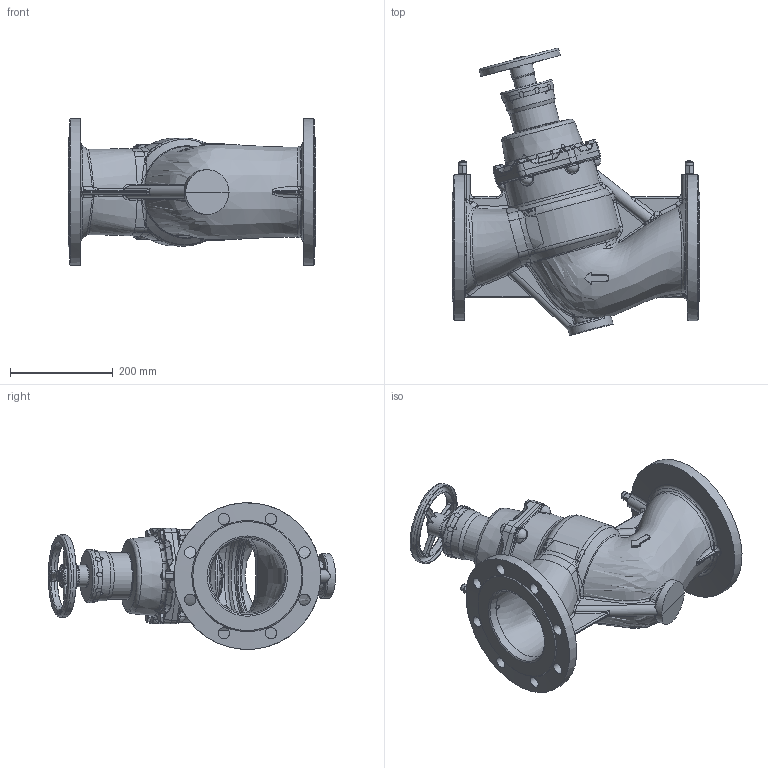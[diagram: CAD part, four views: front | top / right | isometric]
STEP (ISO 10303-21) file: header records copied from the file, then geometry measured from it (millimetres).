
FILE_DESCRIPTION (( 'STEP AP203' ), '1' );
FILE_NAME ('EKOFLUX.S_DN150.STEP', '2013-01-17T13:08:29', ( 'luca.saino' ), ( 'Hewlett-Packard Company' ), 'SwSTEP 2.0', 'SolidWorks 2012', '' );
FILE_SCHEMA (( 'CONFIG_CONTROL_DESIGN' ));
Length unit declared in the file: millimetre
Products named in the file (1): EKOFLUX.S_DN150
Bounding box: 480 x 558.45 x 284.76 mm (x, y, z)
Volume: 9447769.3 mm3; surface area: 983015.6 mm2
Topology: 1 solids, 9 shells, 1570 faces, 3929 edges, 2363 vertices
Faces by surface type: bspline 638, plane 359, cylinder 218, cone 185, torus 128, sphere 42
Full cylindrical faces by diameter (mm): 5 x2, 6.5 x2, 8.5 x4, 10 x2, 11.5 x2, 15 x4, 20 x1, 22 x17, 42 x1, 45 x1, 87 x1, 90 x1, 92.99 x1, 97 x1, 103 x1, 130 x1, 133 x1, 150 x2, 157 x1, 160 x1
Entity records: 92690 total; most frequent: CARTESIAN_POINT 61553, ORIENTED_EDGE 7434, DIRECTION 4981, EDGE_CURVE 3717, VERTEX_POINT 2299, AXIS2_PLACEMENT_3D 2101, B_SPLINE_CURVE_WITH_KNOTS 1744, EDGE_LOOP 1730
